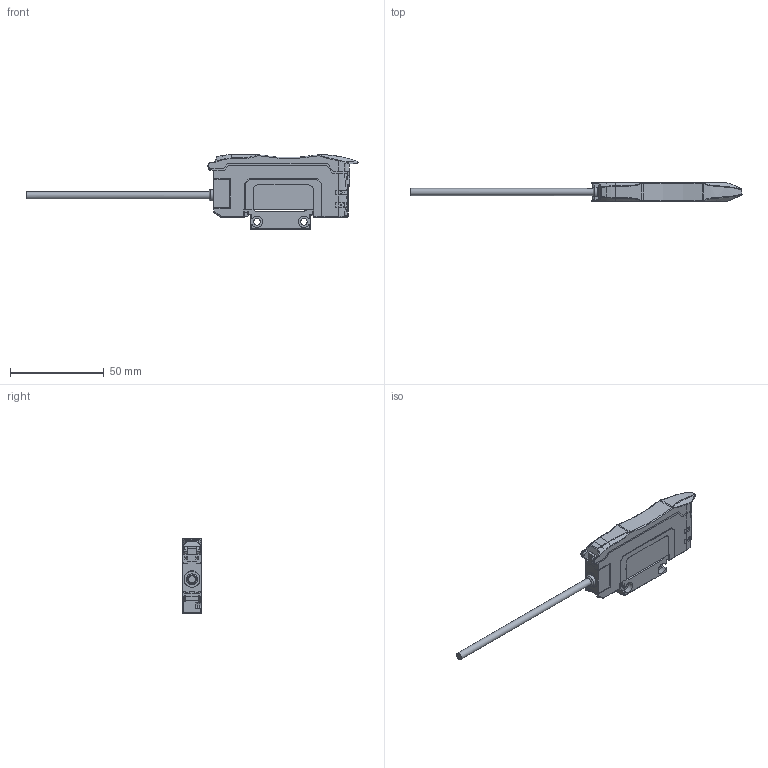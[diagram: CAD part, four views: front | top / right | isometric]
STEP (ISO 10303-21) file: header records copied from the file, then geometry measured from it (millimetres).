
FILE_DESCRIPTION(/* description */ (''),/* implementation_level */ '2;1');
FILE_NAME(/* name */ 'F:\HUAYIFENG\02)HUAYIFENG_3D_MODE\HUAYIFENG_3D_MODE_\X2\51497EA4653E59275668\X0\\FR-J16_20181229\FR-J16_3D.stp',/* time_stamp */ '2019-03-13T16:44:33+08:00',/* author */ ('fengjiarun'),/* organization */ (''),/* preprocessor_version */ 'ST-DEVELOPER v16.5',/* originating_system */ 'Autodesk Inventor 2017',/* authorisation */ '');
FILE_SCHEMA (('AUTOMOTIVE_DESIGN { 1 0 10303 214 3 1 1 }'));
Products named in the file (1): 零件1
Bounding box: 176.77 x 10 x 39.72 mm (x, y, z)
Volume: 12106.8 mm3; surface area: 20793.1 mm2
Topology: 2 solids, 2 shells, 1703 faces, 4800 edges, 3033 vertices
Faces by surface type: plane 1063, cylinder 354, bspline 181, torus 54, sphere 30, cone 21
Full cylindrical faces by diameter (mm): 1 x6, 1.02 x1, 1.25 x1, 1.381 x1, 1.481 x1, 1.5 x4, 2.2 x2, 2.3 x2, 3.5 x3, 3.8 x1, 4 x1, 6 x1, 6.8 x2, 8.4 x1
Entity records: 65334 total; most frequent: CARTESIAN_POINT 20079, ORIENTED_EDGE 9498, DIRECTION 8560, EDGE_CURVE 4729, LINE 3306, VECTOR 3306, VERTEX_POINT 3012, AXIS2_PLACEMENT_3D 2627
